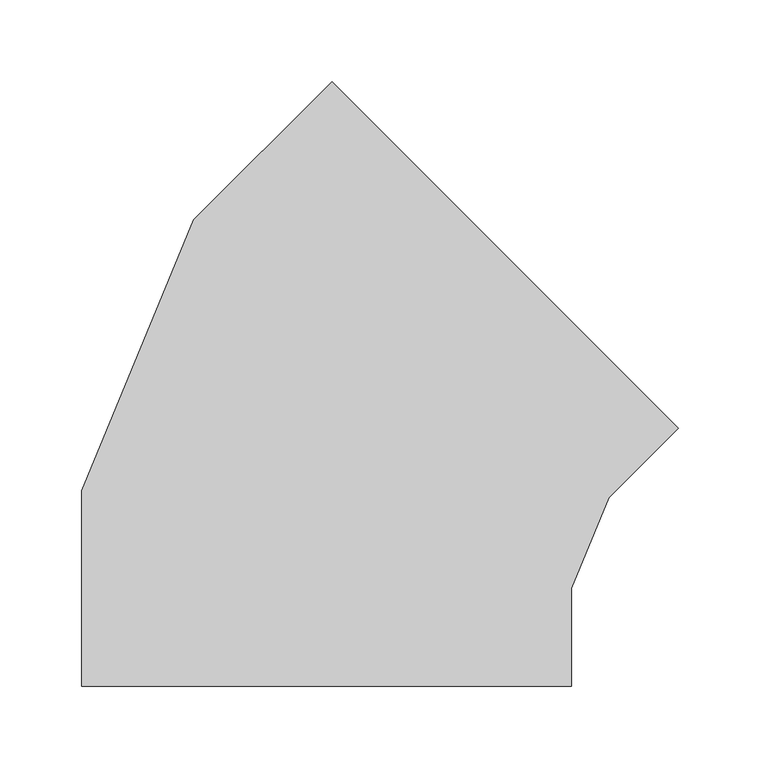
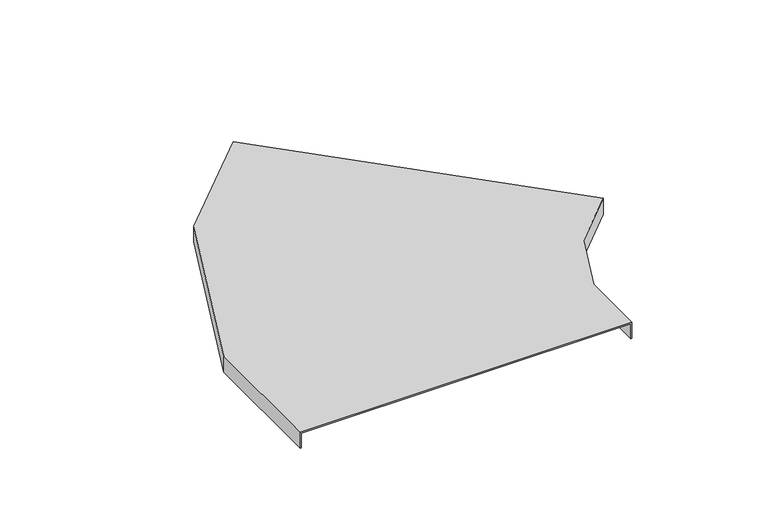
"""IFC4 building model written with IfcOpenShell, lengths in millimetres: proxy geometry, Cable_Tray_Cover_TCPERC45_Basortray : Basortray TCPERC45-300-GS."""

from ifc_helpers import new_model, si_unit, origin, place, context, project, spatial, faceted_brep, source, transform, mapped, element, save


def generic_models_5eda5abc(model_context):
    return source(origin(), model_context, "Body", "Brep", [
        faceted_brep([(0.0, -60.0, -14.0), (0.0, -60.0, 1.0), (-300.0, -60.0, 1.0), (-300.0, -60.0, -14.0), (-299.0, -60.0, -14.0), (-299.0, -60.0, 0.0), (-1.0, -60.0, 0.0), (-1.0, -60.0, -14.0), (0.0, 0.0, -14.0), (0.0, 0.0, 1.0), (22.958787, 55.433691, 1.0), (65.3851939, 97.8600979, 1.0), (-146.7468405, 309.9921322, 1.0), (-231.3733462, 225.3656265, 1.0), (-300.0, 59.6674684, 1.0), (-300.0, 59.6674684, -14.0), (-231.3733462, 225.3656265, -14.0), (-146.7468405, 309.9921322, -14.0), (-146.0397337, 309.2850255, -14.0), (-230.5255724, 224.7991867, -14.0), (-299.0, 59.4685768, -14.0), (-299.0, 59.4685768, 0.0), (-230.5255724, 224.7991867, 0.0), (-146.0397337, 309.2850255, 0.0), (64.6780871, 98.5672047, 0.0), (22.1110132, 56.0001308, 0.0), (-1.0, 0.1988916, 0.0), (-1.0, 0.1988916, -14.0), (22.1110132, 56.0001308, -14.0), (64.6780871, 98.5672047, -14.0), (65.3851939, 97.8600979, -14.0), (22.958787, 55.433691, -14.0)], [[[0, 1, 2, 3, 4, 5, 6, 7]], [[1, 0, 8, 9]], [[2, 1, 9, 10, 11, 12, 13, 14]], [[3, 2, 14, 15]], [[4, 3, 15, 16, 17, 18, 19, 20]], [[5, 4, 20, 21]], [[6, 5, 21, 22, 23, 24, 25, 26]], [[7, 6, 26, 27]], [[0, 7, 27, 28, 29, 30, 31, 8]], [[9, 8, 31, 10]], [[15, 14, 13, 16]], [[21, 20, 19, 22]], [[27, 26, 25, 28]], [[30, 29, 24, 23, 18, 17, 12, 11]], [[10, 31, 30, 11]], [[16, 13, 12, 17]], [[22, 19, 18, 23]], [[28, 25, 24, 29]]]),
    ])


if __name__ == "__main__":
    model = new_model("IFC4")
    model_context = context("Model", 3, world=origin())
    ifc_project = project(units=[si_unit("LENGTHUNIT", "METRE", prefix="MILLI")], contexts=[model_context])
    site = spatial("IfcSite", under=ifc_project)
    building = spatial("IfcBuilding", under=site)
    placement = place(None, origin())
    generic_models_shape = generic_models_5eda5abc(model_context)
    element("IfcBuildingElementProxy", 1, Name="Cable_Tray_Cover_TCPERC45_Basortray : Basortray TCPERC45-300-GS", ObjectType="Cable_Tray_Cover_TCPERC45_Basortray : Basortray TCPERC45-300-GS", at=placement, inside=building, context=model_context, shape_type="MappedRepresentation", body=[
        mapped(generic_models_shape, transform((0.0, 0.0, 0.0), x_axis=(1.0, 0.0, 0.0), y_axis=(0.0, 1.0, 0.0), z_axis=(0.0, 0.0, 1.0))),
    ])
    save(model, "model.ifc")
